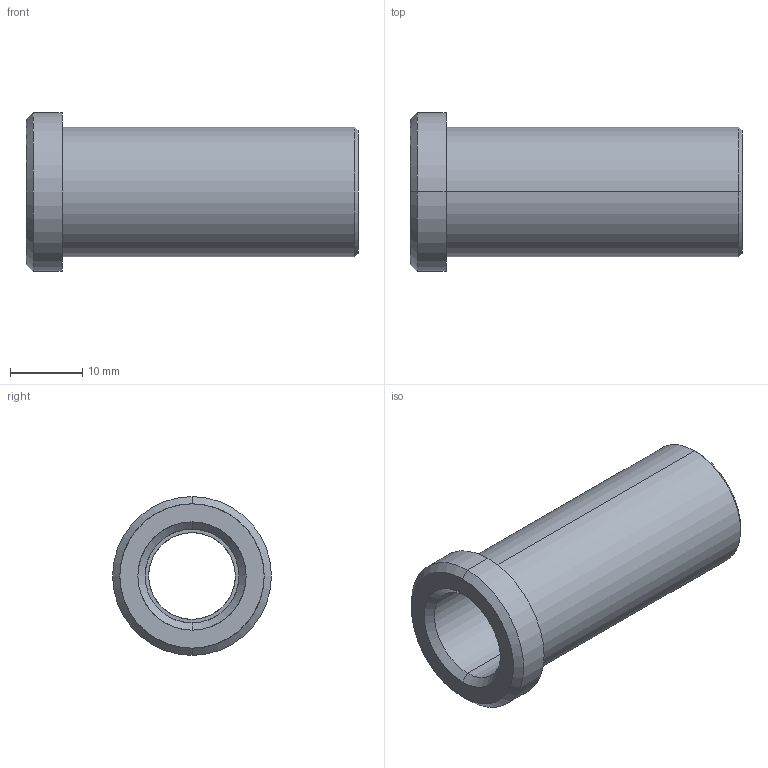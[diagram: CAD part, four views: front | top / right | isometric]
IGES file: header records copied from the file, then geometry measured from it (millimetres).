
Start section: START RECORD GO HERE.
Global section: file name: 353-12X46.igs; native system: DASSAULT SYSTEMES CATIA V5 R20 - www.3ds.com; preprocessor: CATIA Version 5 Release 20 ; author: Utente; organization: NB04-ASUS; date: 20210421.142047; units: millimetre
Bounding box: 46 x 22 x 22 mm (x, y, z)
Surface area: 4904.4 mm2 (no closed solid volume)
Topology: 0 solids, 0 shells, 20 faces, 128 edges, 128 vertices
Faces by surface type: revolution 16, plane 4
